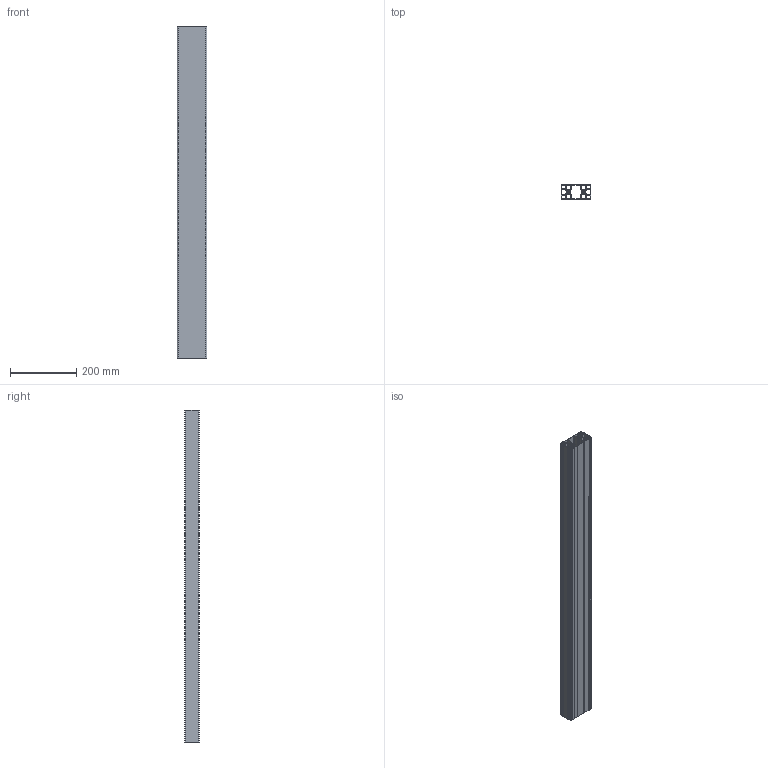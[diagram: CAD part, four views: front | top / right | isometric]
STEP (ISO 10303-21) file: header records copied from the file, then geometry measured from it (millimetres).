
FILE_DESCRIPTION (( 'STEP AP214' ), '1' );
FILE_NAME ('SA03010L.step', '2024-12-03T16:29:05', ( '' ), ( '' ), 'SwSTEP 2.0', 'SolidWorks 2023', '' );
FILE_SCHEMA (( 'AUTOMOTIVE_DESIGN' ));
Length unit declared in the file: millimetre
Products named in the file (1): SA03010L
Bounding box: 90 x 45 x 1000 mm (x, y, z)
Volume: 837300.1 mm3; surface area: 993418.1 mm2
Topology: 1 solids, 1 shells, 192 faces, 578 edges, 388 vertices
Faces by surface type: plane 136, cylinder 56
Full cylindrical faces by diameter (mm): 7.45 x2
Entity records: 6543 total; most frequent: CARTESIAN_POINT 1157, ORIENTED_EDGE 1152, DIRECTION 1074, EDGE_CURVE 576, VECTOR 464, LINE 464, VERTEX_POINT 388, AXIS2_PLACEMENT_3D 305
